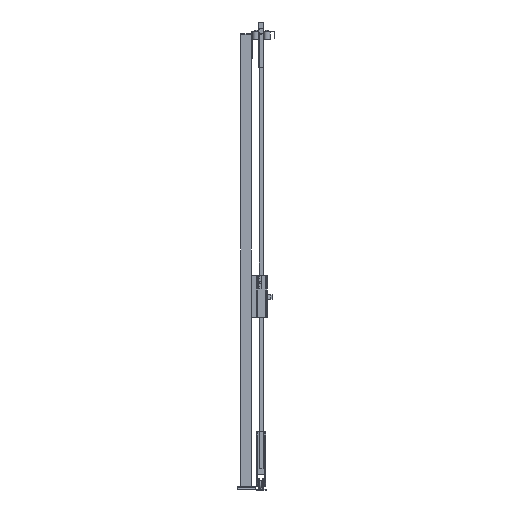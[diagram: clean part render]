
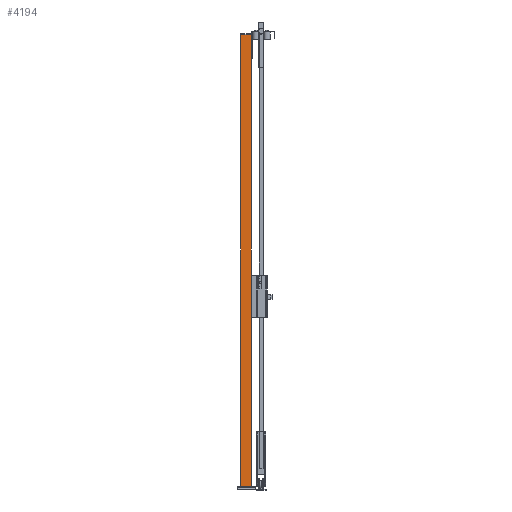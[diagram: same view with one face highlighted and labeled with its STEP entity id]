
A CAD part, left-side view. The second image highlights one B-rep face of the part: STEP entity #4194.
In plain terms, the highlighted planar face has unit normal (-1, 0, 0) as drawn and (0, 1, 0) by its records, which use the part's own axes.
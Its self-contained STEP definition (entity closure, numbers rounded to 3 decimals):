
#495=FACE_OUTER_BOUND('',#798,.T.);
#798=EDGE_LOOP('',(#2623,#2624,#2625,#2626));
#1138=VERTEX_POINT('',#8713);
#1139=VERTEX_POINT('',#8715);
#1141=VERTEX_POINT('',#8721);
#1144=VERTEX_POINT('',#8726);
#1732=EDGE_CURVE('',#1138,#1139,#4887,.T.);
#1738=EDGE_CURVE('',#1144,#1141,#4893,.T.);
#1741=EDGE_CURVE('',#1139,#1144,#4896,.T.);
#1742=EDGE_CURVE('',#1138,#1141,#4897,.T.);
#2623=ORIENTED_EDGE('',*,*,#1742,.T.);
#2624=ORIENTED_EDGE('',*,*,#1738,.F.);
#2625=ORIENTED_EDGE('',*,*,#1741,.F.);
#2626=ORIENTED_EDGE('',*,*,#1732,.F.);
#3941=PLANE('',#6219);
#4194=ADVANCED_FACE('',(#495),#3941,.F.);
#4887=LINE('',#8716,#5595);
#4893=LINE('',#8728,#5601);
#4896=LINE('',#8733,#5604);
#4897=LINE('',#8735,#5605);
#5595=VECTOR('',#6889,1.);
#5601=VECTOR('',#6897,1.);
#5604=VECTOR('',#6904,1.);
#5605=VECTOR('',#6907,1.);
#6219=AXIS2_PLACEMENT_3D('',#8734,#6905,#6906);
#6889=DIRECTION('',(-1.,0.,0.));
#6897=DIRECTION('',(1.,0.,0.));
#6904=DIRECTION('',(0.,0.,-1.));
#6905=DIRECTION('center_axis',(0.,-1.,0.));
#6906=DIRECTION('ref_axis',(0.,0.,-1.));
#6907=DIRECTION('',(0.,0.,-1.));
#8713=CARTESIAN_POINT('',(30.,30.,2520.));
#8715=CARTESIAN_POINT('',(-30.,30.,2520.));
#8716=CARTESIAN_POINT('',(0.,30.,2520.));
#8721=CARTESIAN_POINT('',(30.,30.,20.));
#8726=CARTESIAN_POINT('',(-30.,30.,20.));
#8728=CARTESIAN_POINT('',(0.,30.,20.));
#8733=CARTESIAN_POINT('',(-30.,30.,1270.));
#8734=CARTESIAN_POINT('Origin',(0.,30.,
1270.));
#8735=CARTESIAN_POINT('',(30.,30.,1270.));
